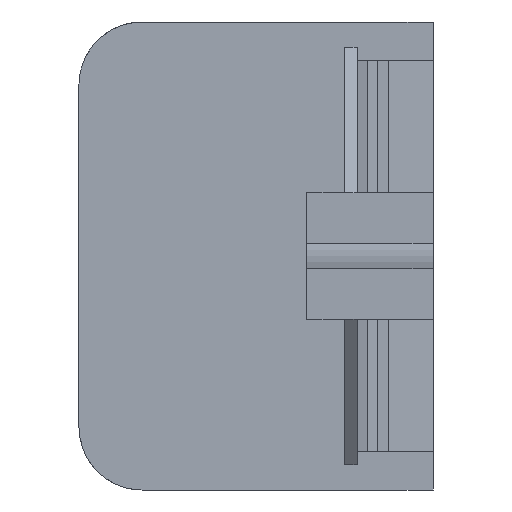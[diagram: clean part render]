
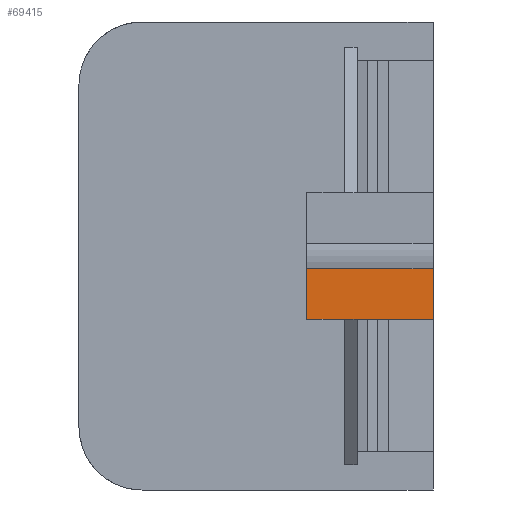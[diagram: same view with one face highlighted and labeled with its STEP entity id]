
A CAD part, left-side view. The second image highlights one B-rep face of the part: STEP entity #69415.
In plain terms, the highlighted planar face has unit normal (-1, 0, 0).
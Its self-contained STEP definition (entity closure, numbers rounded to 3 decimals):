
#829 = VERTEX_POINT ( 'NONE', #29579 ) ;
#1411 = EDGE_CURVE ( 'NONE', #25593, #9475, #57462, .T. ) ;
#1553 = DIRECTION ( 'NONE',  ( 0., 1., 0. ) ) ;
#1746 = VECTOR ( 'NONE', #57508, 1000. ) ;
#1892 = EDGE_CURVE ( 'NONE', #85228, #829, #16364, .T. ) ;
#9475 = VERTEX_POINT ( 'NONE', #31516 ) ;
#9923 = ORIENTED_EDGE ( 'NONE', *, *, #1411, .T. ) ;
#13800 = EDGE_CURVE ( 'NONE', #75379, #85228, #75620, .T. ) ;
#15984 = EDGE_CURVE ( 'NONE', #87223, #829, #83780, .T. ) ;
#16364 = LINE ( 'NONE', #22506, #84710 ) ;
#17488 = CARTESIAN_POINT ( 'NONE',  ( -114., -10., 0. ) ) ;
#18544 = VECTOR ( 'NONE', #50546, 1000. ) ;
#22506 = CARTESIAN_POINT ( 'NONE',  ( -114., 0., -5. ) ) ;
#23479 = CARTESIAN_POINT ( 'NONE',  ( -114., 0., -1. ) ) ;
#23485 = ORIENTED_EDGE ( 'NONE', *, *, #15984, .T. ) ;
#25593 = VERTEX_POINT ( 'NONE', #64279 ) ;
#25669 = DIRECTION ( 'NONE',  ( 0., 0., -1. ) ) ;
#28910 = ORIENTED_EDGE ( 'NONE', *, *, #13800, .F. ) ;
#29579 = CARTESIAN_POINT ( 'NONE',  ( -114., -3., -5. ) ) ;
#30926 = ORIENTED_EDGE ( 'NONE', *, *, #73712, .T. ) ;
#31516 = CARTESIAN_POINT ( 'NONE',  ( -114., 0., -1. ) ) ;
#33163 = CARTESIAN_POINT ( 'NONE',  ( -114., 0., 0. ) ) ;
#35226 = DIRECTION ( 'NONE',  ( 0., -1., 0. ) ) ;
#36519 = VECTOR ( 'NONE', #35226, 1000. ) ;
#42137 = ORIENTED_EDGE ( 'NONE', *, *, #64767, .F. ) ;
#42491 = DIRECTION ( 'NONE',  ( 0., 1., 0. ) ) ;
#45252 = AXIS2_PLACEMENT_3D ( 'NONE', #33163, #67230, #87205 ) ;
#49566 = FACE_OUTER_BOUND ( 'NONE', #67839, .T. ) ;
#50546 = DIRECTION ( 'NONE',  ( 0., 1., 0. ) ) ;
#53375 = LINE ( 'NONE', #17488, #1746 ) ;
#55829 = CARTESIAN_POINT ( 'NONE',  ( -114., -4., -5. ) ) ;
#57334 = VECTOR ( 'NONE', #25669, 1000. ) ;
#57462 = LINE ( 'NONE', #23479, #18544 ) ;
#57508 = DIRECTION ( 'NONE',  ( 0., 0., -1. ) ) ;
#62826 = CARTESIAN_POINT ( 'NONE',  ( -114., 0., -5. ) ) ;
#64279 = CARTESIAN_POINT ( 'NONE',  ( -114., -10., -1. ) ) ;
#64767 = EDGE_CURVE ( 'NONE', #25593, #75379, #53375, .T. ) ;
#65123 = VECTOR ( 'NONE', #1553, 1000. ) ;
#66384 = PLANE ( 'NONE',  #45252 ) ;
#67230 = DIRECTION ( 'NONE',  ( -1., 0., 0. ) ) ;
#67839 = EDGE_LOOP ( 'NONE', ( #28910, #42137, #9923, #30926, #23485, #73635 ) ) ;
#69415 = ADVANCED_FACE ( 'NONE', ( #49566 ), #66384, .T. ) ;
#71926 = LINE ( 'NONE', #79189, #57334 ) ;
#73635 = ORIENTED_EDGE ( 'NONE', *, *, #1892, .F. ) ;
#73712 = EDGE_CURVE ( 'NONE', #9475, #87223, #71926, .T. ) ;
#74438 = CARTESIAN_POINT ( 'NONE',  ( -114., -10., -5. ) ) ;
#75323 = CARTESIAN_POINT ( 'NONE',  ( -114., -10., -5. ) ) ;
#75379 = VERTEX_POINT ( 'NONE', #74438 ) ;
#75620 = LINE ( 'NONE', #75323, #65123 ) ;
#79148 = CARTESIAN_POINT ( 'NONE',  ( -114., 0., -5. ) ) ;
#79189 = CARTESIAN_POINT ( 'NONE',  ( -114., 0., 0. ) ) ;
#83780 = LINE ( 'NONE', #62826, #36519 ) ;
#84710 = VECTOR ( 'NONE', #42491, 1000. ) ;
#85228 = VERTEX_POINT ( 'NONE', #55829 ) ;
#87205 = DIRECTION ( 'NONE',  ( 0., -1., 0. ) ) ;
#87223 = VERTEX_POINT ( 'NONE', #79148 ) ;
